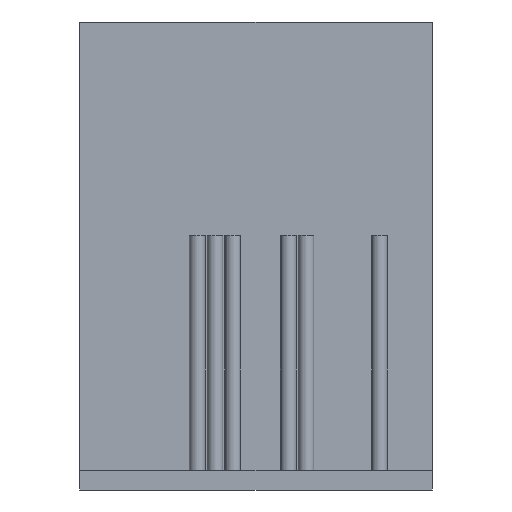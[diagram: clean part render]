
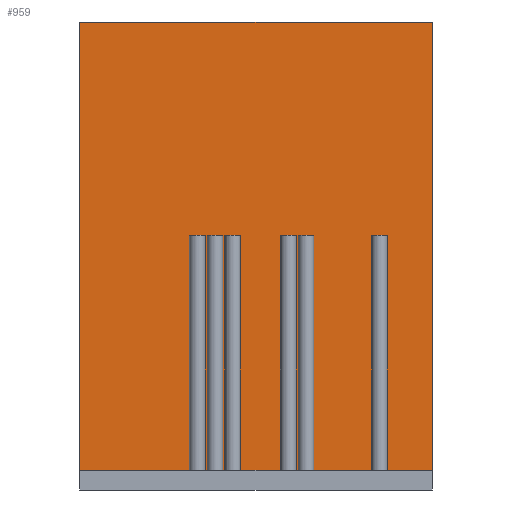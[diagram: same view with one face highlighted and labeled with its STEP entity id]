
A CAD part, front view. The second image highlights one B-rep face of the part: STEP entity #959.
In plain terms, the highlighted planar face has unit normal (0, -1, 0).
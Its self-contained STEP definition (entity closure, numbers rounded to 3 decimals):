
#13=DIRECTION('',(-1.,0.,0.));
#14=VECTOR('',#13,18.);
#15=CARTESIAN_POINT('',(9.,1.,0.));
#16=LINE('',#15,#14);
#141=DIRECTION('',(0.,0.,-1.));
#142=VECTOR('',#141,22.9);
#143=CARTESIAN_POINT('',(-9.,1.,0.));
#144=LINE('',#143,#142);
#161=DIRECTION('',(0.,0.,1.));
#162=VECTOR('',#161,12.);
#163=CARTESIAN_POINT('',(-2.5,1.,-22.9));
#164=LINE('',#163,#162);
#165=DIRECTION('',(1.,0.,0.));
#166=VECTOR('',#165,0.1);
#167=CARTESIAN_POINT('',(-2.6,1.,-22.9));
#168=LINE('',#167,#166);
#169=DIRECTION('',(0.,0.,1.));
#170=VECTOR('',#169,12.);
#171=CARTESIAN_POINT('',(-2.6,1.,-22.9));
#172=LINE('',#171,#170);
#173=DIRECTION('',(-1.,0.,0.));
#174=VECTOR('',#173,0.8);
#175=CARTESIAN_POINT('',(-2.6,1.,-10.9));
#176=LINE('',#175,#174);
#177=DIRECTION('',(0.,0.,1.));
#178=VECTOR('',#177,12.);
#179=CARTESIAN_POINT('',(-3.4,1.,-22.9));
#180=LINE('',#179,#178);
#181=DIRECTION('',(1.,0.,0.));
#182=VECTOR('',#181,5.6);
#183=CARTESIAN_POINT('',(-9.,1.,-22.9));
#184=LINE('',#183,#182);
#185=DIRECTION('',(0.,0.,-1.));
#186=VECTOR('',#185,22.9);
#187=CARTESIAN_POINT('',(9.,1.,0.));
#188=LINE('',#187,#186);
#189=DIRECTION('',(1.,0.,0.));
#190=VECTOR('',#189,2.3);
#191=CARTESIAN_POINT('',(6.7,1.,-22.9));
#192=LINE('',#191,#190);
#193=DIRECTION('',(0.,0.,1.));
#194=VECTOR('',#193,12.);
#195=CARTESIAN_POINT('',(6.7,1.,-22.9));
#196=LINE('',#195,#194);
#197=DIRECTION('',(1.,0.,0.));
#198=VECTOR('',#197,0.8);
#199=CARTESIAN_POINT('',(5.9,1.,-10.9));
#200=LINE('',#199,#198);
#201=DIRECTION('',(0.,0.,-1.));
#202=VECTOR('',#201,12.);
#203=CARTESIAN_POINT('',(5.9,1.,-10.9));
#204=LINE('',#203,#202);
#205=DIRECTION('',(1.,0.,0.));
#206=VECTOR('',#205,2.95);
#207=CARTESIAN_POINT('',(2.95,1.,-22.9));
#208=LINE('',#207,#206);
#209=DIRECTION('',(0.,0.,1.));
#210=VECTOR('',#209,12.);
#211=CARTESIAN_POINT('',(2.95,1.,-22.9));
#212=LINE('',#211,#210);
#213=DIRECTION('',(1.,0.,0.));
#214=VECTOR('',#213,0.8);
#215=CARTESIAN_POINT('',(2.15,1.,-10.9));
#216=LINE('',#215,#214);
#217=DIRECTION('',(0.,0.,-1.));
#218=VECTOR('',#217,12.);
#219=CARTESIAN_POINT('',(2.15,1.,-10.9));
#220=LINE('',#219,#218);
#221=DIRECTION('',(1.,0.,0.));
#222=VECTOR('',#221,0.1);
#223=CARTESIAN_POINT('',(2.05,1.,-22.9));
#224=LINE('',#223,#222);
#225=DIRECTION('',(0.,0.,1.));
#226=VECTOR('',#225,12.);
#227=CARTESIAN_POINT('',(2.05,1.,-22.9));
#228=LINE('',#227,#226);
#229=DIRECTION('',(1.,0.,0.));
#230=VECTOR('',#229,0.8);
#231=CARTESIAN_POINT('',(1.25,1.,-10.9));
#232=LINE('',#231,#230);
#233=DIRECTION('',(0.,0.,-1.));
#234=VECTOR('',#233,12.);
#235=CARTESIAN_POINT('',(1.25,1.,-10.9));
#236=LINE('',#235,#234);
#237=DIRECTION('',(1.,0.,0.));
#238=VECTOR('',#237,2.05);
#239=CARTESIAN_POINT('',(-0.8,1.,-22.9));
#240=LINE('',#239,#238);
#241=DIRECTION('',(0.,0.,1.));
#242=VECTOR('',#241,12.);
#243=CARTESIAN_POINT('',(-0.8,1.,-22.9));
#244=LINE('',#243,#242);
#245=DIRECTION('',(-1.,0.,0.));
#246=VECTOR('',#245,0.8);
#247=CARTESIAN_POINT('',(-0.8,1.,-10.9));
#248=LINE('',#247,#246);
#249=DIRECTION('',(0.,0.,1.));
#250=VECTOR('',#249,12.);
#251=CARTESIAN_POINT('',(-1.6,1.,-22.9));
#252=LINE('',#251,#250);
#253=DIRECTION('',(1.,0.,0.));
#254=VECTOR('',#253,0.1);
#255=CARTESIAN_POINT('',(-1.7,1.,-22.9));
#256=LINE('',#255,#254);
#257=DIRECTION('',(0.,0.,1.));
#258=VECTOR('',#257,12.);
#259=CARTESIAN_POINT('',(-1.7,1.,-22.9));
#260=LINE('',#259,#258);
#261=DIRECTION('',(-1.,0.,0.));
#262=VECTOR('',#261,0.8);
#263=CARTESIAN_POINT('',(-1.7,1.,-10.9));
#264=LINE('',#263,#262);
#569=CARTESIAN_POINT('',(9.,1.,0.));
#570=CARTESIAN_POINT('',(-9.,1.,0.));
#571=VERTEX_POINT('',#569);
#572=VERTEX_POINT('',#570);
#669=CARTESIAN_POINT('',(-2.5,1.,-22.9));
#670=CARTESIAN_POINT('',(-2.5,1.,-10.9));
#671=VERTEX_POINT('',#669);
#672=VERTEX_POINT('',#670);
#673=CARTESIAN_POINT('',(-1.7,1.,-22.9));
#674=CARTESIAN_POINT('',(-1.7,1.,-10.9));
#675=VERTEX_POINT('',#673);
#676=VERTEX_POINT('',#674);
#677=CARTESIAN_POINT('',(-3.4,1.,-22.9));
#678=CARTESIAN_POINT('',(-3.4,1.,-10.9));
#679=VERTEX_POINT('',#677);
#680=VERTEX_POINT('',#678);
#681=CARTESIAN_POINT('',(-2.6,1.,-22.9));
#682=CARTESIAN_POINT('',(-2.6,1.,-10.9));
#683=VERTEX_POINT('',#681);
#684=VERTEX_POINT('',#682);
#685=CARTESIAN_POINT('',(-1.6,1.,-22.9));
#686=CARTESIAN_POINT('',(-1.6,1.,-10.9));
#687=VERTEX_POINT('',#685);
#688=VERTEX_POINT('',#686);
#689=CARTESIAN_POINT('',(-0.8,1.,-22.9));
#690=CARTESIAN_POINT('',(-0.8,1.,-10.9));
#691=VERTEX_POINT('',#689);
#692=VERTEX_POINT('',#690);
#701=CARTESIAN_POINT('',(-9.,1.,-22.9));
#702=VERTEX_POINT('',#701);
#703=CARTESIAN_POINT('',(9.,1.,-22.9));
#704=VERTEX_POINT('',#703);
#705=CARTESIAN_POINT('',(1.25,1.,-10.9));
#706=CARTESIAN_POINT('',(2.05,1.,-10.9));
#707=VERTEX_POINT('',#705);
#708=VERTEX_POINT('',#706);
#709=CARTESIAN_POINT('',(2.15,1.,-10.9));
#710=CARTESIAN_POINT('',(2.95,1.,-10.9));
#711=VERTEX_POINT('',#709);
#712=VERTEX_POINT('',#710);
#713=CARTESIAN_POINT('',(5.9,1.,-10.9));
#714=CARTESIAN_POINT('',(6.7,1.,-10.9));
#715=VERTEX_POINT('',#713);
#716=VERTEX_POINT('',#714);
#717=CARTESIAN_POINT('',(1.25,1.,-22.9));
#718=VERTEX_POINT('',#717);
#719=CARTESIAN_POINT('',(2.15,1.,-22.9));
#720=VERTEX_POINT('',#719);
#721=CARTESIAN_POINT('',(5.9,1.,-22.9));
#722=VERTEX_POINT('',#721);
#723=CARTESIAN_POINT('',(2.05,1.,-22.9));
#724=VERTEX_POINT('',#723);
#725=CARTESIAN_POINT('',(2.95,1.,-22.9));
#726=VERTEX_POINT('',#725);
#727=CARTESIAN_POINT('',(6.7,1.,-22.9));
#728=VERTEX_POINT('',#727);
#898=CARTESIAN_POINT('',(9.,1.,0.));
#899=DIRECTION('',(0.,-1.,0.));
#900=DIRECTION('',(-1.,0.,0.));
#901=AXIS2_PLACEMENT_3D('',#898,#899,#900);
#902=PLANE('',#901);
#904=ORIENTED_EDGE('',*,*,#903,.F.);
#906=ORIENTED_EDGE('',*,*,#905,.F.);
#908=ORIENTED_EDGE('',*,*,#907,.T.);
#910=ORIENTED_EDGE('',*,*,#909,.T.);
#912=ORIENTED_EDGE('',*,*,#911,.F.);
#914=ORIENTED_EDGE('',*,*,#913,.F.);
#915=ORIENTED_EDGE('',*,*,#881,.F.);
#916=ORIENTED_EDGE('',*,*,#764,.F.);
#918=ORIENTED_EDGE('',*,*,#917,.T.);
#920=ORIENTED_EDGE('',*,*,#919,.F.);
#922=ORIENTED_EDGE('',*,*,#921,.T.);
#924=ORIENTED_EDGE('',*,*,#923,.F.);
#926=ORIENTED_EDGE('',*,*,#925,.T.);
#928=ORIENTED_EDGE('',*,*,#927,.F.);
#930=ORIENTED_EDGE('',*,*,#929,.T.);
#932=ORIENTED_EDGE('',*,*,#931,.F.);
#934=ORIENTED_EDGE('',*,*,#933,.T.);
#936=ORIENTED_EDGE('',*,*,#935,.F.);
#938=ORIENTED_EDGE('',*,*,#937,.T.);
#940=ORIENTED_EDGE('',*,*,#939,.F.);
#942=ORIENTED_EDGE('',*,*,#941,.T.);
#944=ORIENTED_EDGE('',*,*,#943,.F.);
#946=ORIENTED_EDGE('',*,*,#945,.T.);
#948=ORIENTED_EDGE('',*,*,#947,.T.);
#950=ORIENTED_EDGE('',*,*,#949,.F.);
#952=ORIENTED_EDGE('',*,*,#951,.F.);
#954=ORIENTED_EDGE('',*,*,#953,.T.);
#956=ORIENTED_EDGE('',*,*,#955,.T.);
#957=EDGE_LOOP('',(#904,#906,#908,#910,#912,#914,#915,#916,#918,#920,#922,#924,
#926,#928,#930,#932,#934,#936,#938,#940,#942,#944,#946,#948,#950,#952,#954,
#956));
#958=FACE_OUTER_BOUND('',#957,.F.);
#959=ADVANCED_FACE('',(#958),#902,.T.);
#764=EDGE_CURVE('',#571,#572,#16,.T.);
#881=EDGE_CURVE('',#572,#702,#144,.T.);
#903=EDGE_CURVE('',#671,#672,#164,.T.);
#905=EDGE_CURVE('',#683,#671,#168,.T.);
#907=EDGE_CURVE('',#683,#684,#172,.T.);
#909=EDGE_CURVE('',#684,#680,#176,.T.);
#911=EDGE_CURVE('',#679,#680,#180,.T.);
#913=EDGE_CURVE('',#702,#679,#184,.T.);
#917=EDGE_CURVE('',#571,#704,#188,.T.);
#919=EDGE_CURVE('',#728,#704,#192,.T.);
#921=EDGE_CURVE('',#728,#716,#196,.T.);
#923=EDGE_CURVE('',#715,#716,#200,.T.);
#925=EDGE_CURVE('',#715,#722,#204,.T.);
#927=EDGE_CURVE('',#726,#722,#208,.T.);
#929=EDGE_CURVE('',#726,#712,#212,.T.);
#931=EDGE_CURVE('',#711,#712,#216,.T.);
#933=EDGE_CURVE('',#711,#720,#220,.T.);
#935=EDGE_CURVE('',#724,#720,#224,.T.);
#937=EDGE_CURVE('',#724,#708,#228,.T.);
#939=EDGE_CURVE('',#707,#708,#232,.T.);
#941=EDGE_CURVE('',#707,#718,#236,.T.);
#943=EDGE_CURVE('',#691,#718,#240,.T.);
#945=EDGE_CURVE('',#691,#692,#244,.T.);
#947=EDGE_CURVE('',#692,#688,#248,.T.);
#949=EDGE_CURVE('',#687,#688,#252,.T.);
#951=EDGE_CURVE('',#675,#687,#256,.T.);
#953=EDGE_CURVE('',#675,#676,#260,.T.);
#955=EDGE_CURVE('',#676,#672,#264,.T.);
